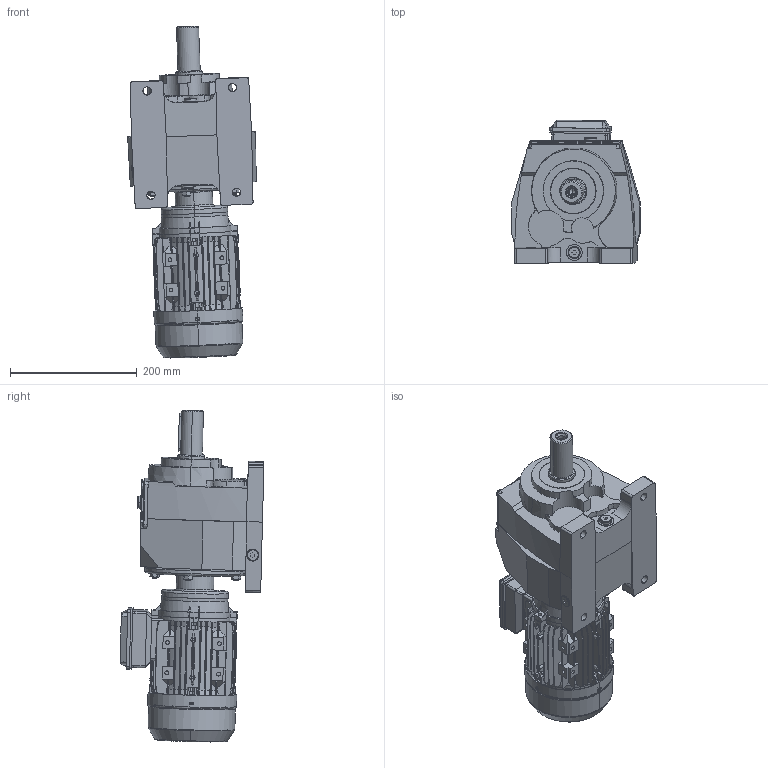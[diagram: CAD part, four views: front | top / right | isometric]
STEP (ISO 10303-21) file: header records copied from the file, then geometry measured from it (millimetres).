
FILE_DESCRIPTION (( 'STEP AP203' ), '1' );
FILE_NAME ('MV_273_0_MX71.STEP', '2018-11-29T08:34:52', ( '' ), ( '' ), 'SwSTEP 2.0', 'SolidWorks 2012', '' );
FILE_SCHEMA (( 'CONFIG_CONTROL_DESIGN' ));
Length unit declared in the file: millimetre
Products named in the file (12): Lüfterhaube_MS71; MV_273_0_MX71; MX71_B14; Klemmenkastenunterteil_MS71; B14-Flansch_MS71; Klemmkastenoberteil_MS71; L黤terfl黦el_MS71; B-Lagerschild_MS71; 2371B14_Varsayìlan; Gehäuse_MS71L; ML107A_Varsayìlan; M273_Varsayìlan
Assembly tree (11 placements, depth 3):
  MV_273_0_MX71
    M273_Varsayìlan
    2371B14_Varsayìlan
    ML107A_Varsayìlan
    MX71_B14
      Gehäuse_MS71L
      B-Lagerschild_MS71
      B14-Flansch_MS71
      Klemmenkastenunterteil_MS71
      Klemmkastenoberteil_MS71
      L黤terfl黦el_MS71
      Lüfterhaube_MS71
Bounding box: 203.05 x 227.07 x 524.18 mm (x, y, z)
Volume: 5995186.9 mm3; surface area: 763825.3 mm2
Topology: 10 solids, 14 shells, 2684 faces, 7117 edges, 4549 vertices
Faces by surface type: plane 1335, cylinder 744, cone 388, bspline 209, torus 8
Entity records: 107148 total; most frequent: CARTESIAN_POINT 42222, ORIENTED_EDGE 14218, DIRECTION 11883, EDGE_CURVE 7109, VERTEX_POINT 4549, AXIS2_PLACEMENT_3D 4076, LINE 3731, VECTOR 3731
